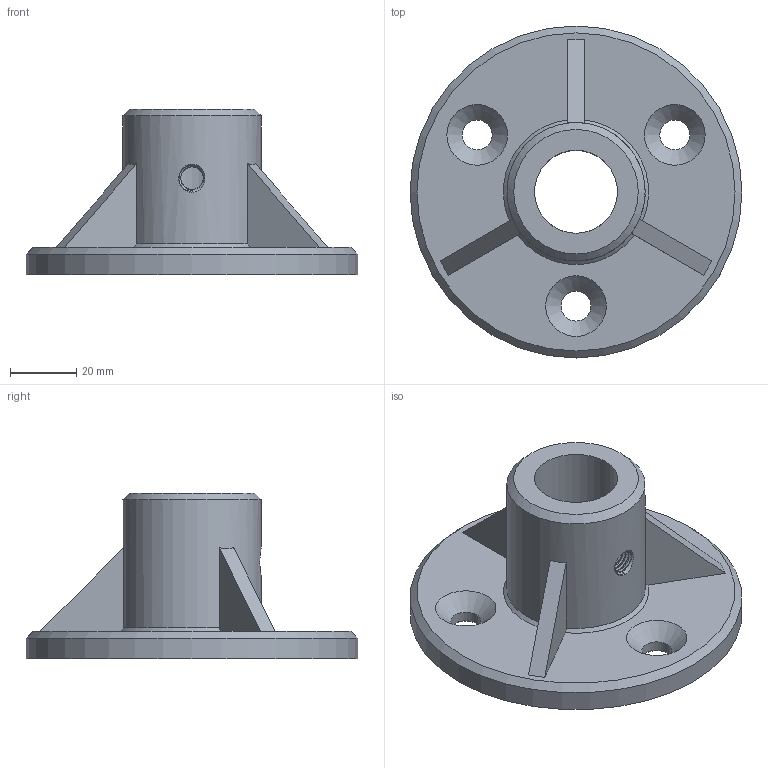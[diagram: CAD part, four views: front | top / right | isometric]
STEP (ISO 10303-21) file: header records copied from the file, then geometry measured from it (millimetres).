
FILE_DESCRIPTION(/* description */ (''),/* implementation_level */ '2;1');
FILE_NAME(/* name */ '25MM_M8.stp',/* time_stamp */ '2024-11-18T16:29:18+01:00',/* author */ (''),/* organization */ (''),/* preprocessor_version */ 'ST-DEVELOPER v20',/* originating_system */ 'SIEMENS PLM Software NX2406.4001',/* authorisation */ '');
FILE_SCHEMA (('AUTOMOTIVE_DESIGN { 1 0 10303 214 3 1 1 1 }'));
Length unit declared in the file: millimetre
Products named in the file (1): 25MM_M8
Bounding box: 100 x 100 x 50 mm (x, y, z)
Volume: 98348.2 mm3; surface area: 28116.9 mm2
Topology: 1 solids, 1 shells, 36 faces, 91 edges, 58 vertices
Faces by surface type: plane 13, cone 13, cylinder 8, bspline 2
Full cylindrical faces by diameter (mm): 9 x3, 25 x1, 41.667 x1, 100 x1
Entity records: 2799 total; most frequent: CARTESIAN_POINT 1971, DIRECTION 159, ORIENTED_EDGE 150, EDGE_CURVE 75, AXIS2_PLACEMENT_3D 68, EDGE_LOOP 61, VERTEX_POINT 56, FACE_BOUND 42
